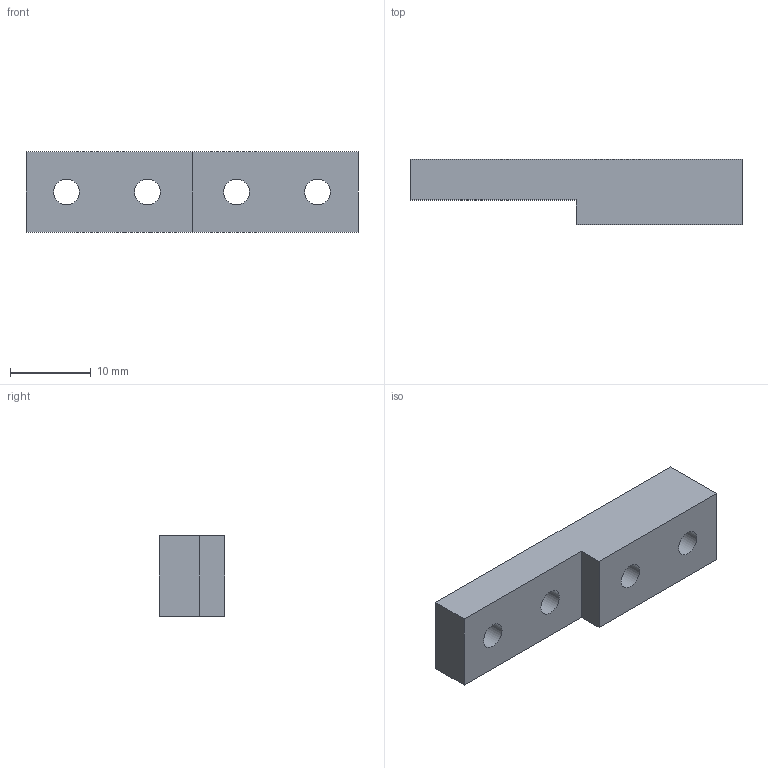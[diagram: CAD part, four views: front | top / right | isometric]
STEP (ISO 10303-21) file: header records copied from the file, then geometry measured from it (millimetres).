
FILE_DESCRIPTION(/* description */ (''),/* implementation_level */ '2;1');
FILE_NAME(/* name */ '014_GND_BRACKET.stp',/* time_stamp */ '2019-07-19T13:56:39+02:00',/* author */ (''),/* organization */ (''),/* preprocessor_version */ 'ST-DEVELOPER v16.7',/* originating_system */ 'SIEMENS PLM Software NX 12.0',/* authorisation */ '');
FILE_SCHEMA (('AUTOMOTIVE_DESIGN { 1 0 10303 214 3 1 1 1 }'));
Length unit declared in the file: millimetre
Products named in the file (1): bmas1184F1DDvyvh
Bounding box: 41 x 8.04 x 10 mm (x, y, z)
Volume: 2452.2 mm3; surface area: 1699.3 mm2
Topology: 1 solids, 1 shells, 16 faces, 46 edges, 32 vertices
Faces by surface type: plane 8, cylinder 4, cone 4
Full cylindrical faces by diameter (mm): 3.2 x4
Entity records: 470 total; most frequent: DIRECTION 76, CARTESIAN_POINT 71, ORIENTED_EDGE 60, EDGE_LOOP 32, EDGE_CURVE 30, AXIS2_PLACEMENT_3D 29, FACE_BOUND 27, VERTEX_POINT 24
